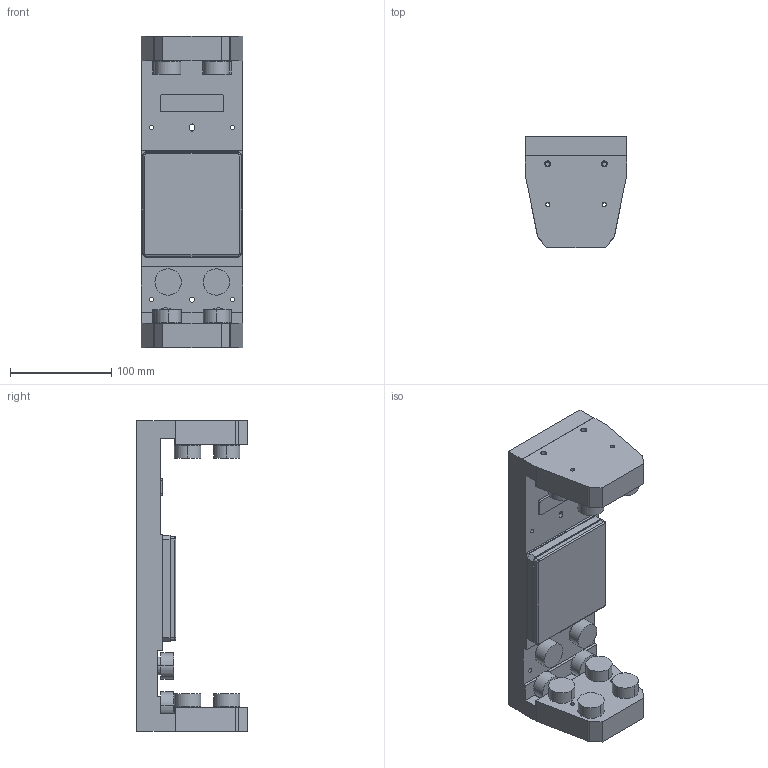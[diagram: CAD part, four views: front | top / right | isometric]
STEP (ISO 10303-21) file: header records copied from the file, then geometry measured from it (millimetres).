
FILE_DESCRIPTION((''),'2;1');
FILE_NAME('W0001033991','2024-08-20T15:47:51',('RRajan1'),('Rockwell Automation'),'CREO PARAMETRIC BY PTC INC, 2020281','CREO PARAMETRIC BY PTC INC, 2020281','');
FILE_SCHEMA(('CONFIG_CONTROL_DESIGN'));
Length unit declared in the file: millimetre
Products named in the file (1): W0001033991
Bounding box: 100 x 109.97 x 307.6 mm (x, y, z)
Volume: 1292101.9 mm3; surface area: 150987 mm2
Topology: 1 solids, 1 shells, 206 faces, 504 edges, 328 vertices
Faces by surface type: cylinder 102, plane 100, bspline 4
Entity records: 6294 total; most frequent: CARTESIAN_POINT 1162, DIRECTION 1112, ORIENTED_EDGE 1008, EDGE_CURVE 504, AXIS2_PLACEMENT_3D 414, VERTEX_POINT 328, VECTOR 284, LINE 284
